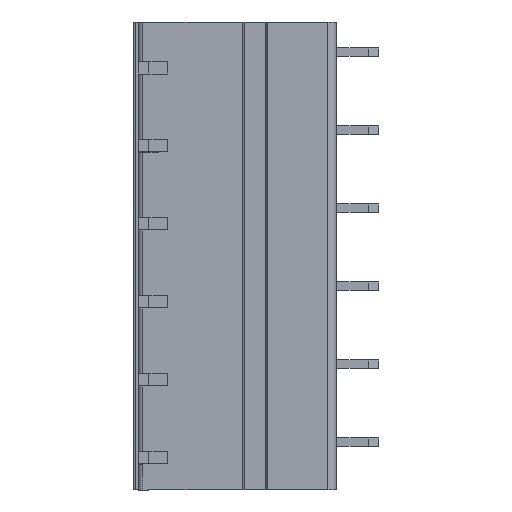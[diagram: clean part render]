
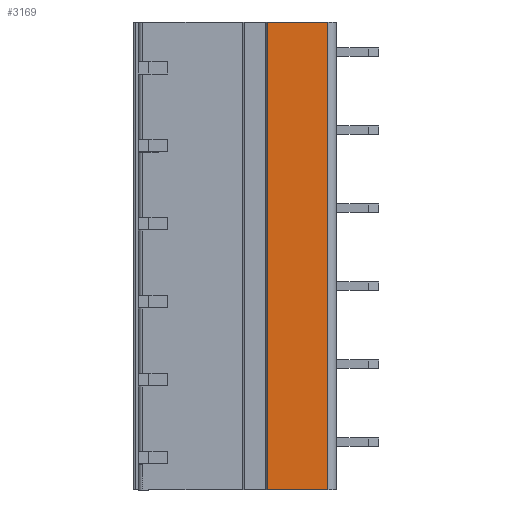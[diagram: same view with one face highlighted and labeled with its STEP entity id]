
A CAD part, left-side view. The second image highlights one B-rep face of the part: STEP entity #3169.
In plain terms, the highlighted planar face has unit normal (-1, 0, 0).
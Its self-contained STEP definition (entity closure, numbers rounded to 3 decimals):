
#87 = CARTESIAN_POINT ( 'NONE',  ( -18.5, 6.2, -12.5 ) ) ;
#521 = DIRECTION ( 'NONE',  ( 0., -1., 0. ) ) ;
#599 = CARTESIAN_POINT ( 'NONE',  ( -18.5, 0.4, -45. ) ) ;
#1377 = VECTOR ( 'NONE', #12272, 1000. ) ;
#2131 = ORIENTED_EDGE ( 'NONE', *, *, #7728, .F. ) ;
#2133 = VERTEX_POINT ( 'NONE', #599 ) ;
#3162 = CARTESIAN_POINT ( 'NONE',  ( -18.5, 0.4, 0. ) ) ;
#3169 = ADVANCED_FACE ( 'NONE', ( #6265 ), #9800, .T. ) ;
#3207 = EDGE_LOOP ( 'NONE', ( #11027, #2131, #10476, #8736 ) ) ;
#3713 = LINE ( 'NONE', #4453, #6273 ) ;
#3932 = VERTEX_POINT ( 'NONE', #7916 ) ;
#4304 = DIRECTION ( 'NONE',  ( 0., 0., -1. ) ) ;
#4453 = CARTESIAN_POINT ( 'NONE',  ( -18.5, 0.4, -45. ) ) ;
#4464 = EDGE_CURVE ( 'NONE', #3932, #6092, #8752, .T. ) ;
#5122 = EDGE_CURVE ( 'NONE', #3932, #10276, #12454, .T. ) ;
#5286 = EDGE_CURVE ( 'NONE', #2133, #6092, #7771, .T. ) ;
#5995 = CARTESIAN_POINT ( 'NONE',  ( -18.5, 0.4, 0. ) ) ;
#6092 = VERTEX_POINT ( 'NONE', #3162 ) ;
#6265 = FACE_OUTER_BOUND ( 'NONE', #3207, .T. ) ;
#6273 = VECTOR ( 'NONE', #9426, 1000. ) ;
#6702 = CARTESIAN_POINT ( 'NONE',  ( -18.5, 0.4, -12.5 ) ) ;
#7673 = DIRECTION ( 'NONE',  ( -1., 0., 0. ) ) ;
#7728 = EDGE_CURVE ( 'NONE', #2133, #10276, #3713, .T. ) ;
#7771 = LINE ( 'NONE', #6702, #8562 ) ;
#7916 = CARTESIAN_POINT ( 'NONE',  ( -18.5, 6.2, 0. ) ) ;
#8562 = VECTOR ( 'NONE', #9815, 1000. ) ;
#8736 = ORIENTED_EDGE ( 'NONE', *, *, #4464, .F. ) ;
#8752 = LINE ( 'NONE', #5995, #1377 ) ;
#8815 = CARTESIAN_POINT ( 'NONE',  ( -18.5, 6.2, -45. ) ) ;
#9329 = AXIS2_PLACEMENT_3D ( 'NONE', #9761, #7673, #521 ) ;
#9426 = DIRECTION ( 'NONE',  ( 0., 1., 0. ) ) ;
#9572 = VECTOR ( 'NONE', #4304, 1000. ) ;
#9761 = CARTESIAN_POINT ( 'NONE',  ( -18.5, 0.4, -12.5 ) ) ;
#9800 = PLANE ( 'NONE',  #9329 ) ;
#9815 = DIRECTION ( 'NONE',  ( 0., 0., 1. ) ) ;
#10276 = VERTEX_POINT ( 'NONE', #8815 ) ;
#10476 = ORIENTED_EDGE ( 'NONE', *, *, #5286, .T. ) ;
#11027 = ORIENTED_EDGE ( 'NONE', *, *, #5122, .T. ) ;
#12272 = DIRECTION ( 'NONE',  ( 0., -1., 0. ) ) ;
#12454 = LINE ( 'NONE', #87, #9572 ) ;
